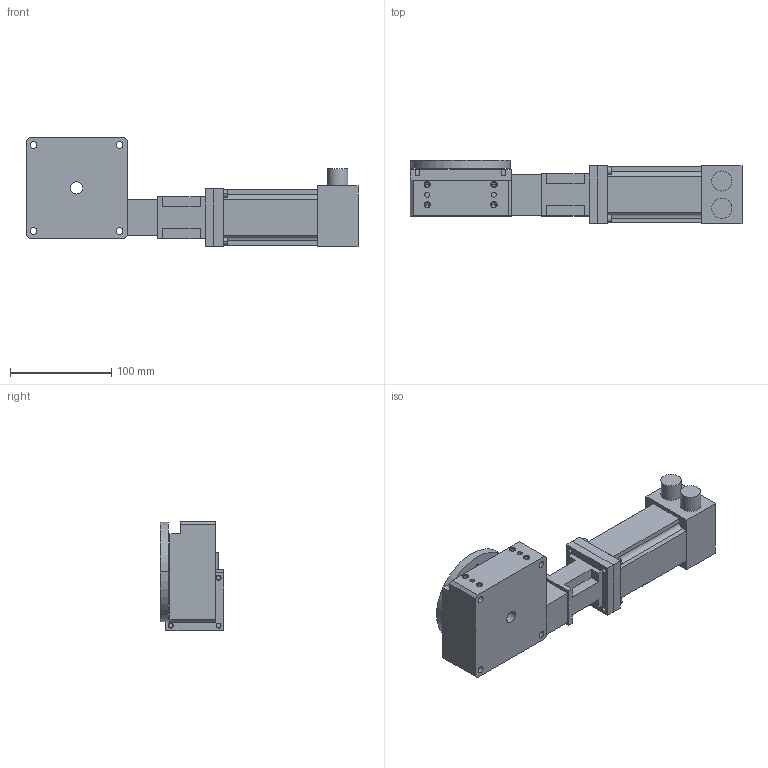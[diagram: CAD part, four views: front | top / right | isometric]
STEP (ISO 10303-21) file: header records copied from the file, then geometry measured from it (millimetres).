
FILE_DESCRIPTION((''),'2;1');
FILE_NAME('R100M6MP2E0_ASM','2009-07-02T',('FK20128'),(''),'PRO/ENGINEER BY PARAMETRIC TECHNOLOGY CORPORATION, 2006200','PRO/ENGINEER BY PARAMETRIC TECHNOLOGY CORPORATION, 2006200','');
FILE_SCHEMA(('CONFIG_CONTROL_DESIGN'));
Length unit declared in the file: millimetre
Products named in the file (4): R100M; R100M-M23; RXXXM-BE233; R100M6MP2E0_ASM
Assembly tree (3 placements, depth 2):
  R100M6MP2E0_ASM
    R100M
    R100M-M23
    RXXXM-BE233
Bounding box: 328.15 x 62.58 x 107.96 mm (x, y, z)
Volume: 1032162.6 mm3; surface area: 134989.2 mm2
Topology: 3 solids, 21 shells, 283 faces, 700 edges, 466 vertices
Faces by surface type: cylinder 144, plane 117, cone 22
Entity records: 8622 total; most frequent: DIRECTION 1612, CARTESIAN_POINT 1448, ORIENTED_EDGE 1304, EDGE_CURVE 688, AXIS2_PLACEMENT_3D 630, VERTEX_POINT 466, EDGE_LOOP 372, VECTOR 352
